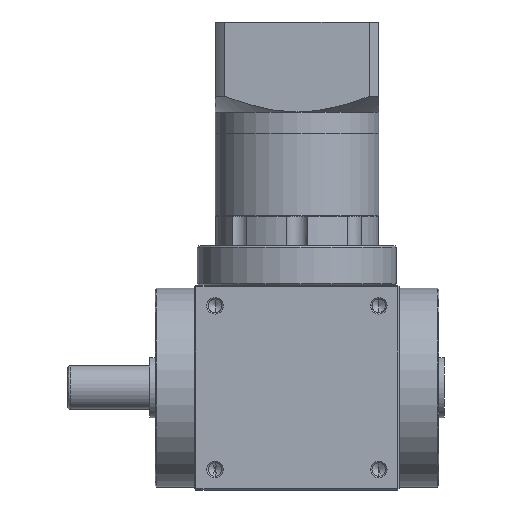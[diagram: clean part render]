
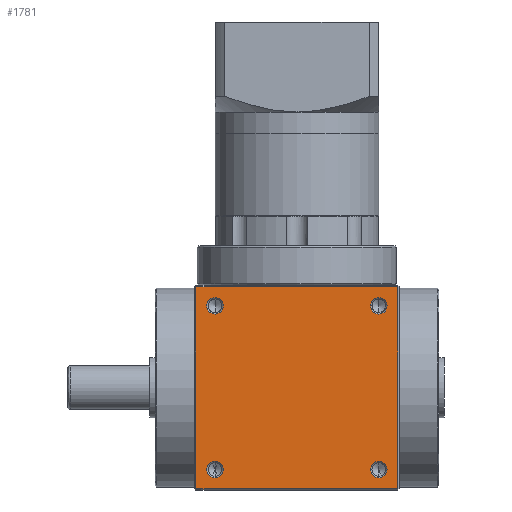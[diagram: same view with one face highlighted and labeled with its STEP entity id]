
A CAD part, front view. The second image highlights one B-rep face of the part: STEP entity #1781.
In plain terms, the highlighted planar face has unit normal (0, -1, 0).
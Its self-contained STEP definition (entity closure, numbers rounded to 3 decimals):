
#721 = CARTESIAN_POINT ( 'NONE',  ( -37., -37.5, 0.5 ) ) ;
#931 = EDGE_CURVE ( 'NONE', #46975, #7037, #2418, .T. ) ;
#1039 = CARTESIAN_POINT ( 'NONE',  ( 30., -37.5, 67.5 ) ) ;
#1251 = EDGE_CURVE ( 'NONE', #6686, #46767, #38572, .T. ) ;
#1443 = AXIS2_PLACEMENT_3D ( 'NONE', #53102, #53029, #53020 ) ;
#1467 = DIRECTION ( 'NONE',  ( 0., -1., 0. ) ) ;
#1781 = ADVANCED_FACE ( 'NONE', ( #15057, #4998, #47073, #48337, #35955 ), #38445, .F. ) ;
#1878 = ORIENTED_EDGE ( 'NONE', *, *, #49137, .F. ) ;
#2418 = LINE ( 'NONE', #34007, #19797 ) ;
#3990 = DIRECTION ( 'NONE',  ( 0., 0., -1. ) ) ;
#4030 = DIRECTION ( 'NONE',  ( 0., -1., 0. ) ) ;
#4098 = CARTESIAN_POINT ( 'NONE',  ( -30., -37.5, 67.5 ) ) ;
#4284 = DIRECTION ( 'NONE',  ( 0., 0., 1. ) ) ;
#4926 = CIRCLE ( 'NONE', #34142, 3.025 ) ;
#4998 = FACE_BOUND ( 'NONE', #29121, .T. ) ;
#5328 = DIRECTION ( 'NONE',  ( 0., 0., -1. ) ) ;
#5341 = ORIENTED_EDGE ( 'NONE', *, *, #41482, .F. ) ;
#5405 = CARTESIAN_POINT ( 'NONE',  ( -37., -37.5, 74.5 ) ) ;
#6311 = CARTESIAN_POINT ( 'NONE',  ( 37., -37.5, 74.5 ) ) ;
#6393 = ORIENTED_EDGE ( 'NONE', *, *, #43745, .F. ) ;
#6686 = VERTEX_POINT ( 'NONE', #15501 ) ;
#7037 = VERTEX_POINT ( 'NONE', #5405 ) ;
#7737 = VERTEX_POINT ( 'NONE', #48646 ) ;
#9828 = CARTESIAN_POINT ( 'NONE',  ( -30., -37.5, 7.5 ) ) ;
#9876 = CARTESIAN_POINT ( 'NONE',  ( 30., -37.5, 70.525 ) ) ;
#10584 = EDGE_CURVE ( 'NONE', #18114, #7737, #45579, .T. ) ;
#10746 = CIRCLE ( 'NONE', #16309, 3.025 ) ;
#12832 = CIRCLE ( 'NONE', #14607, 3.025 ) ;
#12883 = ORIENTED_EDGE ( 'NONE', *, *, #22895, .F. ) ;
#13046 = ORIENTED_EDGE ( 'NONE', *, *, #931, .F. ) ;
#13114 = CARTESIAN_POINT ( 'NONE',  ( -37.5, -37.5, 0.5 ) ) ;
#14173 = DIRECTION ( 'NONE',  ( 0., -1., 0. ) ) ;
#14175 = DIRECTION ( 'NONE',  ( 0., 0., -1. ) ) ;
#14529 = CARTESIAN_POINT ( 'NONE',  ( 30., -37.5, 67.5 ) ) ;
#14607 = AXIS2_PLACEMENT_3D ( 'NONE', #39141, #14173, #43389 ) ;
#14890 = ORIENTED_EDGE ( 'NONE', *, *, #17396, .F. ) ;
#15057 = FACE_BOUND ( 'NONE', #49536, .T. ) ;
#15358 = DIRECTION ( 'NONE',  ( 1., 0., 0. ) ) ;
#15501 = CARTESIAN_POINT ( 'NONE',  ( 30., -37.5, 4.475 ) ) ;
#15578 = AXIS2_PLACEMENT_3D ( 'NONE', #21548, #21485, #21412 ) ;
#15620 = ORIENTED_EDGE ( 'NONE', *, *, #35504, .F. ) ;
#16022 = EDGE_CURVE ( 'NONE', #35673, #34689, #38308, .T. ) ;
#16309 = AXIS2_PLACEMENT_3D ( 'NONE', #4098, #4030, #3990 ) ;
#16658 = EDGE_CURVE ( 'NONE', #34689, #35673, #10746, .T. ) ;
#17396 = EDGE_CURVE ( 'NONE', #7737, #46975, #37539, .T. ) ;
#18114 = VERTEX_POINT ( 'NONE', #6311 ) ;
#18802 = DIRECTION ( 'NONE',  ( 0., 0., -1. ) ) ;
#19233 = ORIENTED_EDGE ( 'NONE', *, *, #16022, .F. ) ;
#19235 = CARTESIAN_POINT ( 'NONE',  ( 30., -37.5, 10.525 ) ) ;
#19797 = VECTOR ( 'NONE', #4284, 1000. ) ;
#21404 = VERTEX_POINT ( 'NONE', #30453 ) ;
#21412 = DIRECTION ( 'NONE',  ( 0., 0., -1. ) ) ;
#21485 = DIRECTION ( 'NONE',  ( 0., -1., 0. ) ) ;
#21548 = CARTESIAN_POINT ( 'NONE',  ( -30., -37.5, 67.5 ) ) ;
#22277 = CARTESIAN_POINT ( 'NONE',  ( -30., -37.5, 4.475 ) ) ;
#22364 = VERTEX_POINT ( 'NONE', #51222 ) ;
#22895 = EDGE_CURVE ( 'NONE', #23910, #22364, #28089, .T. ) ;
#23910 = VERTEX_POINT ( 'NONE', #9876 ) ;
#24478 = AXIS2_PLACEMENT_3D ( 'NONE', #9828, #39142, #14175 ) ;
#25909 = DIRECTION ( 'NONE',  ( -1., 0., 0. ) ) ;
#26962 = CARTESIAN_POINT ( 'NONE',  ( -30., -37.5, 7.5 ) ) ;
#28089 = CIRCLE ( 'NONE', #37121, 3.025 ) ;
#28140 = CIRCLE ( 'NONE', #46746, 3.025 ) ;
#28694 = ORIENTED_EDGE ( 'NONE', *, *, #1251, .F. ) ;
#29121 = EDGE_LOOP ( 'NONE', ( #38461, #12883 ) ) ;
#30453 = CARTESIAN_POINT ( 'NONE',  ( -30., -37.5, 10.525 ) ) ;
#30688 = DIRECTION ( 'NONE',  ( 0., -1., 0. ) ) ;
#31100 = DIRECTION ( 'NONE',  ( 0., 0., -1. ) ) ;
#33430 = EDGE_CURVE ( 'NONE', #22364, #23910, #4926, .T. ) ;
#34007 = CARTESIAN_POINT ( 'NONE',  ( -37., -37.5, 75. ) ) ;
#34142 = AXIS2_PLACEMENT_3D ( 'NONE', #14529, #43743, #18802 ) ;
#34689 = VERTEX_POINT ( 'NONE', #49790 ) ;
#35504 = EDGE_CURVE ( 'NONE', #46767, #6686, #12832, .T. ) ;
#35673 = VERTEX_POINT ( 'NONE', #44839 ) ;
#35955 = FACE_OUTER_BOUND ( 'NONE', #47681, .T. ) ;
#36620 = VERTEX_POINT ( 'NONE', #22277 ) ;
#37121 = AXIS2_PLACEMENT_3D ( 'NONE', #1039, #30688, #5328 ) ;
#37539 = LINE ( 'NONE', #13114, #44772 ) ;
#38090 = DIRECTION ( 'NONE',  ( 0., 0., 1. ) ) ;
#38159 = DIRECTION ( 'NONE',  ( 0., 1., 0. ) ) ;
#38214 = CARTESIAN_POINT ( 'NONE',  ( -37.5, -37.5, 75. ) ) ;
#38308 = CIRCLE ( 'NONE', #15578, 3.025 ) ;
#38445 = PLANE ( 'NONE',  #48292 ) ;
#38461 = ORIENTED_EDGE ( 'NONE', *, *, #33430, .F. ) ;
#38572 = CIRCLE ( 'NONE', #1443, 3.025 ) ;
#38581 = DIRECTION ( 'NONE',  ( 0., 0., -1. ) ) ;
#38763 = CARTESIAN_POINT ( 'NONE',  ( 37., -37.5, 75. ) ) ;
#39141 = CARTESIAN_POINT ( 'NONE',  ( 30., -37.5, 7.5 ) ) ;
#39142 = DIRECTION ( 'NONE',  ( 0., -1., 0. ) ) ;
#41482 = EDGE_CURVE ( 'NONE', #7037, #18114, #52341, .T. ) ;
#42780 = EDGE_LOOP ( 'NONE', ( #1878, #6393 ) ) ;
#42950 = VECTOR ( 'NONE', #38581, 1000. ) ;
#43389 = DIRECTION ( 'NONE',  ( 0., 0., -1. ) ) ;
#43743 = DIRECTION ( 'NONE',  ( 0., -1., 0. ) ) ;
#43745 = EDGE_CURVE ( 'NONE', #21404, #36620, #49564, .T. ) ;
#44573 = CARTESIAN_POINT ( 'NONE',  ( -37.5, -37.5, 74.5 ) ) ;
#44772 = VECTOR ( 'NONE', #25909, 1000. ) ;
#44839 = CARTESIAN_POINT ( 'NONE',  ( -30., -37.5, 70.525 ) ) ;
#45057 = ORIENTED_EDGE ( 'NONE', *, *, #10584, .F. ) ;
#45579 = LINE ( 'NONE', #38763, #42950 ) ;
#46746 = AXIS2_PLACEMENT_3D ( 'NONE', #26962, #1467, #31100 ) ;
#46767 = VERTEX_POINT ( 'NONE', #19235 ) ;
#46975 = VERTEX_POINT ( 'NONE', #721 ) ;
#47073 = FACE_BOUND ( 'NONE', #48983, .T. ) ;
#47681 = EDGE_LOOP ( 'NONE', ( #45057, #5341, #13046, #14890 ) ) ;
#48292 = AXIS2_PLACEMENT_3D ( 'NONE', #38214, #38159, #38090 ) ;
#48337 = FACE_BOUND ( 'NONE', #42780, .T. ) ;
#48646 = CARTESIAN_POINT ( 'NONE',  ( 37., -37.5, 0.5 ) ) ;
#48983 = EDGE_LOOP ( 'NONE', ( #28694, #15620 ) ) ;
#49137 = EDGE_CURVE ( 'NONE', #36620, #21404, #28140, .T. ) ;
#49536 = EDGE_LOOP ( 'NONE', ( #51900, #19233 ) ) ;
#49564 = CIRCLE ( 'NONE', #24478, 3.025 ) ;
#49755 = VECTOR ( 'NONE', #15358, 1000. ) ;
#49790 = CARTESIAN_POINT ( 'NONE',  ( -30., -37.5, 64.475 ) ) ;
#51222 = CARTESIAN_POINT ( 'NONE',  ( 30., -37.5, 64.475 ) ) ;
#51900 = ORIENTED_EDGE ( 'NONE', *, *, #16658, .F. ) ;
#52341 = LINE ( 'NONE', #44573, #49755 ) ;
#53020 = DIRECTION ( 'NONE',  ( 0., 0., -1. ) ) ;
#53029 = DIRECTION ( 'NONE',  ( 0., -1., 0. ) ) ;
#53102 = CARTESIAN_POINT ( 'NONE',  ( 30., -37.5, 7.5 ) ) ;
